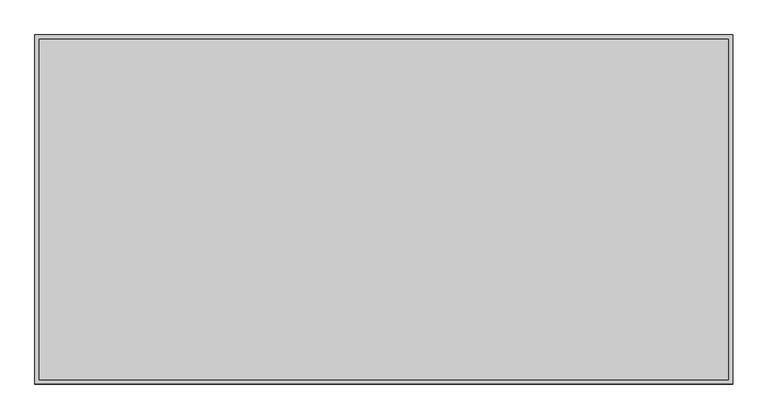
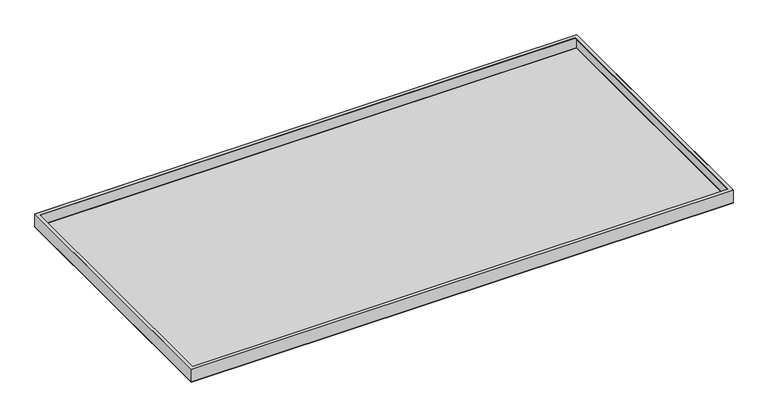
"""IFC4 building model written with IfcOpenShell, lengths in millimetres: proxy geometry, durlum_dur_SOLO_TYPE4_panel : durlum_dur_SOLO_TYPE4_panel."""

from ifc_helpers import new_model, si_unit, frame, origin, origin_with_axes, place, context, project, spatial, polyline, outline, extrude, source, transform, mapped, element, save


def generic_models_d8b8c2a7(model_context):
    return source(origin(), model_context, "Body", "SweptSolid", [
        extrude(outline(polyline([(1000.0, 500.0), (1000.0, -500.0), (-1000.0, -500.0), (-1000.0, 500.0), (1000.0, 500.0)]), holes=[polyline([(-988.0, 488.0), (-988.0, -488.0), (988.0, -488.0), (988.0, 488.0), (-988.0, 488.0)])]), frame((0.0, 0.0, 49.4), z_axis=(0.0, 0.0, 1.0), x_axis=(1.0, 0.0, 0.0)), (0.0, 0.0, 1.0), 0.6),
        extrude(outline(polyline([(1000.0, 500.0), (1000.0, -500.0), (-1000.0, -500.0), (-1000.0, 500.0), (1000.0, 500.0)]), holes=[polyline([(999.4, 499.4), (-999.4, 499.4), (-999.4, -499.4), (999.4, -499.4), (999.4, 499.4)])]), frame((0.0, 0.0, 0.6), z_axis=(0.0, 0.0, 1.0), x_axis=(1.0, 0.0, 0.0)), (0.0, 0.0, 1.0), 49.4),
        extrude(outline(polyline([(996.0, 496.0), (996.0, -496.0), (-996.0, -496.0), (-996.0, 496.0), (996.0, 496.0)])), frame((0.0, 0.0, 0.6), z_axis=(0.0, 0.0, 1.0), x_axis=(1.0, 0.0, 0.0)), (0.0, 0.0, 1.0), 0.6),
        extrude(outline(polyline([(1000.0, 500.0), (1000.0, -500.0), (-1000.0, -500.0), (-1000.0, 500.0), (1000.0, 500.0)]), holes=[polyline([(996.0, 496.0), (-996.0, 496.0), (-996.0, -496.0), (996.0, -496.0), (996.0, 496.0)])]), origin_with_axes(), (0.0, 0.0, 1.0), 0.6),
        extrude(outline(polyline([(996.0, 496.0), (996.0, -496.0), (-996.0, -496.0), (-996.0, 496.0), (996.0, 496.0)])), origin_with_axes(), (0.0, 0.0, 1.0), 0.6),
    ])


if __name__ == "__main__":
    model = new_model("IFC4")
    model_context = context("Model", 3, world=origin())
    ifc_project = project(units=[si_unit("LENGTHUNIT", "METRE", prefix="MILLI")], contexts=[model_context])
    site = spatial("IfcSite", under=ifc_project)
    building = spatial("IfcBuilding", under=site)
    placement = place(None, origin())
    generic_models_shape = generic_models_d8b8c2a7(model_context)
    element("IfcBuildingElementProxy", 1, Name="durlum_dur_SOLO_TYPE4_panel : durlum_dur_SOLO_TYPE4_panel", ObjectType="durlum_dur_SOLO_TYPE4_panel : durlum_dur_SOLO_TYPE4_panel", at=placement, inside=building, context=model_context, shape_type="MappedRepresentation", body=[
        mapped(generic_models_shape, transform((0.0, 0.0, 0.0), x_axis=(1.0, 0.0, 0.0), y_axis=(0.0, 1.0, 0.0), z_axis=(0.0, 0.0, 1.0))),
    ])
    save(model, "model.ifc")
